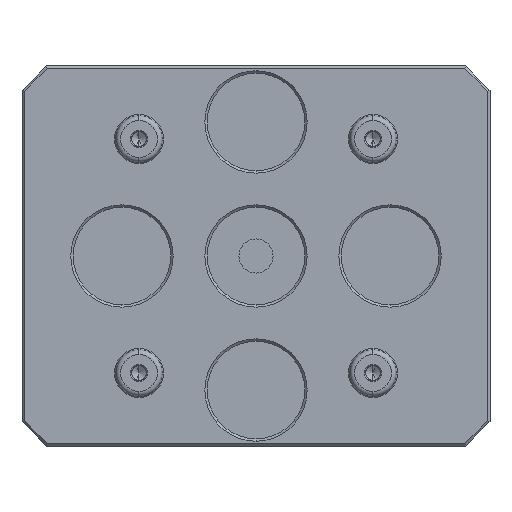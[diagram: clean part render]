
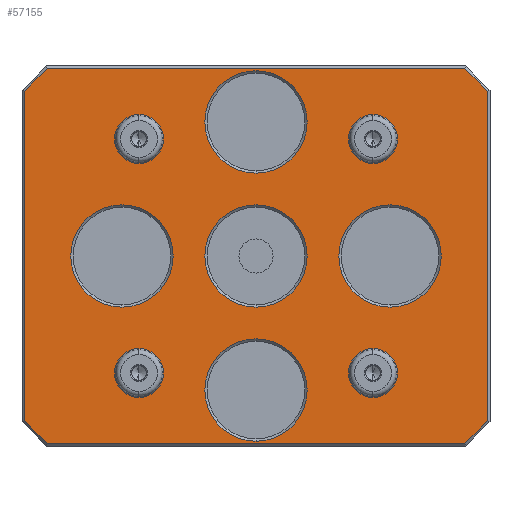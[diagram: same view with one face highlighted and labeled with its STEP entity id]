
A CAD part, front view. The second image highlights one B-rep face of the part: STEP entity #57155.
In plain terms, the highlighted planar face has unit normal (0, -1, 0).
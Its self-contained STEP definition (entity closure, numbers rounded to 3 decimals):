
#50152=DIRECTION('',(-1.,0.,0.));
#50153=VECTOR('',#50152,171.172);
#50154=CARTESIAN_POINT('',(85.586,0.,-77.));
#50155=LINE('',#50154,#50153);
#50184=DIRECTION('',(0.,0.,1.));
#50185=VECTOR('',#50184,135.172);
#50186=CARTESIAN_POINT('',(-95.,0.,-67.586));
#50187=LINE('',#50186,#50185);
#50204=DIRECTION('',(1.,0.,0.));
#50205=VECTOR('',#50204,171.172);
#50206=CARTESIAN_POINT('',(-85.586,0.,77.));
#50207=LINE('',#50206,#50205);
#50212=DIRECTION('',(0.,0.,-1.));
#50213=VECTOR('',#50212,135.172);
#50214=CARTESIAN_POINT('',(95.,0.,67.586));
#50215=LINE('',#50214,#50213);
#50224=DIRECTION('',(0.707,0.,0.707));
#50225=VECTOR('',#50224,13.314);
#50226=CARTESIAN_POINT('',(85.586,0.,-77.));
#50227=LINE('',#50226,#50225);
#50228=DIRECTION('',(0.707,0.,-0.707));
#50229=VECTOR('',#50228,13.314);
#50230=CARTESIAN_POINT('',(-95.,0.,-67.586));
#50231=LINE('',#50230,#50229);
#50232=DIRECTION('',(-0.707,0.,-0.707));
#50233=VECTOR('',#50232,13.314);
#50234=CARTESIAN_POINT('',(-85.586,0.,77.));
#50235=LINE('',#50234,#50233);
#50236=DIRECTION('',(-0.707,0.,0.707));
#50237=VECTOR('',#50236,13.314);
#50238=CARTESIAN_POINT('',(95.,0.,67.586));
#50239=LINE('',#50238,#50237);
#50240=CARTESIAN_POINT('',(48.,0.,48.));
#50241=DIRECTION('',(0.,1.,0.));
#50242=DIRECTION('',(0.,0.,-1.));
#50243=AXIS2_PLACEMENT_3D('',#50240,#50241,#50242);
#50245=CARTESIAN_POINT('',(48.,0.,48.));
#50246=DIRECTION('',(0.,1.,0.));
#50247=DIRECTION('',(0.,0.,1.));
#50248=AXIS2_PLACEMENT_3D('',#50245,#50246,#50247);
#50250=CARTESIAN_POINT('',(48.,0.,-48.));
#50251=DIRECTION('',(0.,1.,0.));
#50252=DIRECTION('',(0.,0.,-1.));
#50253=AXIS2_PLACEMENT_3D('',#50250,#50251,#50252);
#50255=CARTESIAN_POINT('',(48.,0.,-48.));
#50256=DIRECTION('',(0.,1.,0.));
#50257=DIRECTION('',(0.,0.,1.));
#50258=AXIS2_PLACEMENT_3D('',#50255,#50256,#50257);
#50260=CARTESIAN_POINT('',(-48.,0.,-48.));
#50261=DIRECTION('',(0.,1.,0.));
#50262=DIRECTION('',(0.,0.,-1.));
#50263=AXIS2_PLACEMENT_3D('',#50260,#50261,#50262);
#50265=CARTESIAN_POINT('',(-48.,0.,-48.));
#50266=DIRECTION('',(0.,1.,0.));
#50267=DIRECTION('',(0.,0.,1.));
#50268=AXIS2_PLACEMENT_3D('',#50265,#50266,#50267);
#50270=CARTESIAN_POINT('',(-48.,0.,48.));
#50271=DIRECTION('',(0.,1.,0.));
#50272=DIRECTION('',(0.,0.,-1.));
#50273=AXIS2_PLACEMENT_3D('',#50270,#50271,#50272);
#50275=CARTESIAN_POINT('',(-48.,0.,48.));
#50276=DIRECTION('',(0.,1.,0.));
#50277=DIRECTION('',(0.,0.,1.));
#50278=AXIS2_PLACEMENT_3D('',#50275,#50276,#50277);
#50280=CARTESIAN_POINT('',(55.,0.,0.));
#50281=DIRECTION('',(0.,1.,0.));
#50282=DIRECTION('',(0.,0.,-1.));
#50283=AXIS2_PLACEMENT_3D('',#50280,#50281,#50282);
#50285=CARTESIAN_POINT('',(55.,0.,0.));
#50286=DIRECTION('',(0.,1.,0.));
#50287=DIRECTION('',(0.,0.,1.));
#50288=AXIS2_PLACEMENT_3D('',#50285,#50286,#50287);
#50290=CARTESIAN_POINT('',(0.,0.,0.));
#50291=DIRECTION('',(0.,1.,0.));
#50292=DIRECTION('',(0.,0.,-1.));
#50293=AXIS2_PLACEMENT_3D('',#50290,#50291,#50292);
#50295=CARTESIAN_POINT('',(0.,0.,0.));
#50296=DIRECTION('',(0.,1.,0.));
#50297=DIRECTION('',(0.,0.,1.));
#50298=AXIS2_PLACEMENT_3D('',#50295,#50296,#50297);
#50300=CARTESIAN_POINT('',(0.,0.,-55.));
#50301=DIRECTION('',(0.,1.,0.));
#50302=DIRECTION('',(0.,0.,-1.));
#50303=AXIS2_PLACEMENT_3D('',#50300,#50301,#50302);
#50305=CARTESIAN_POINT('',(0.,0.,-55.));
#50306=DIRECTION('',(0.,1.,0.));
#50307=DIRECTION('',(0.,0.,1.));
#50308=AXIS2_PLACEMENT_3D('',#50305,#50306,#50307);
#50310=CARTESIAN_POINT('',(-55.,0.,0.));
#50311=DIRECTION('',(0.,1.,0.));
#50312=DIRECTION('',(0.,0.,-1.));
#50313=AXIS2_PLACEMENT_3D('',#50310,#50311,#50312);
#50315=CARTESIAN_POINT('',(-55.,0.,0.));
#50316=DIRECTION('',(0.,1.,0.));
#50317=DIRECTION('',(0.,0.,1.));
#50318=AXIS2_PLACEMENT_3D('',#50315,#50316,#50317);
#50320=CARTESIAN_POINT('',(0.,0.,55.));
#50321=DIRECTION('',(0.,1.,0.));
#50322=DIRECTION('',(0.,0.,-1.));
#50323=AXIS2_PLACEMENT_3D('',#50320,#50321,#50322);
#50325=CARTESIAN_POINT('',(0.,0.,55.));
#50326=DIRECTION('',(0.,1.,0.));
#50327=DIRECTION('',(0.,0.,1.));
#50328=AXIS2_PLACEMENT_3D('',#50325,#50326,#50327);
#53240=CARTESIAN_POINT('',(-48.,0.,-56.5));
#53242=VERTEX_POINT('',#53240);
#53286=CARTESIAN_POINT('',(55.,0.,21.));
#53288=VERTEX_POINT('',#53286);
#53298=CARTESIAN_POINT('',(-95.,0.,-67.586));
#53299=CARTESIAN_POINT('',(-85.586,0.,-77.));
#53300=VERTEX_POINT('',#53298);
#53301=VERTEX_POINT('',#53299);
#53340=CARTESIAN_POINT('',(48.,0.,39.5));
#53341=CARTESIAN_POINT('',(48.,0.,56.5));
#53342=VERTEX_POINT('',#53340);
#53343=VERTEX_POINT('',#53341);
#53357=CARTESIAN_POINT('',(85.586,0.,-77.));
#53359=VERTEX_POINT('',#53357);
#53370=CARTESIAN_POINT('',(0.,0.,76.));
#53371=VERTEX_POINT('',#53370);
#53376=CARTESIAN_POINT('',(95.,0.,-67.586));
#53377=VERTEX_POINT('',#53376);
#53436=CARTESIAN_POINT('',(85.586,0.,77.));
#53438=VERTEX_POINT('',#53436);
#53477=CARTESIAN_POINT('',(-55.,0.,-21.));
#53478=CARTESIAN_POINT('',(-55.,0.,21.));
#53479=VERTEX_POINT('',#53477);
#53480=VERTEX_POINT('',#53478);
#53493=CARTESIAN_POINT('',(95.,0.,67.586));
#53494=VERTEX_POINT('',#53493);
#53536=CARTESIAN_POINT('',(-85.586,0.,77.));
#53537=VERTEX_POINT('',#53536);
#53860=CARTESIAN_POINT('',(-48.,0.,-39.5));
#53861=VERTEX_POINT('',#53860);
#53867=CARTESIAN_POINT('',(55.,0.,-21.));
#53868=VERTEX_POINT('',#53867);
#53918=CARTESIAN_POINT('',(0.,0.,-34.));
#53919=VERTEX_POINT('',#53918);
#53945=CARTESIAN_POINT('',(0.,0.,34.));
#53947=VERTEX_POINT('',#53945);
#53973=CARTESIAN_POINT('',(0.,0.,-76.));
#53974=VERTEX_POINT('',#53973);
#54033=CARTESIAN_POINT('',(48.,0.,-56.5));
#54034=CARTESIAN_POINT('',(48.,0.,-39.5));
#54035=VERTEX_POINT('',#54033);
#54036=VERTEX_POINT('',#54034);
#54082=CARTESIAN_POINT('',(-48.,0.,56.5));
#54084=VERTEX_POINT('',#54082);
#54142=CARTESIAN_POINT('',(-48.,0.,39.5));
#54143=VERTEX_POINT('',#54142);
#54158=CARTESIAN_POINT('',(-95.,0.,67.586));
#54159=VERTEX_POINT('',#54158);
#54242=CARTESIAN_POINT('',(0.,0.,-21.));
#54243=VERTEX_POINT('',#54242);
#54263=CARTESIAN_POINT('',(0.,0.,21.));
#54264=VERTEX_POINT('',#54263);
#57086=CARTESIAN_POINT('',(0.,0.,0.));
#57087=DIRECTION('',(0.,-1.,0.));
#57088=DIRECTION('',(0.,0.,-1.));
#57089=AXIS2_PLACEMENT_3D('',#57086,#57087,#57088);
#57090=PLANE('',#57089);
#57091=ORIENTED_EDGE('',*,*,#57079,.T.);
#57092=ORIENTED_EDGE('',*,*,#56981,.F.);
#57093=ORIENTED_EDGE('',*,*,#56996,.T.);
#57094=ORIENTED_EDGE('',*,*,#57010,.F.);
#57095=ORIENTED_EDGE('',*,*,#57026,.T.);
#57096=ORIENTED_EDGE('',*,*,#57040,.F.);
#57097=ORIENTED_EDGE('',*,*,#57054,.T.);
#57098=ORIENTED_EDGE('',*,*,#57066,.F.);
#57099=EDGE_LOOP('',(#57091,#57092,#57093,#57094,#57095,#57096,#57097,#57098));
#57100=FACE_OUTER_BOUND('',#57099,.F.);
#57102=ORIENTED_EDGE('',*,*,#57101,.F.);
#57104=ORIENTED_EDGE('',*,*,#57103,.F.);
#57105=EDGE_LOOP('',(#57102,#57104));
#57106=FACE_BOUND('',#57105,.F.);
#57108=ORIENTED_EDGE('',*,*,#57107,.F.);
#57110=ORIENTED_EDGE('',*,*,#57109,.F.);
#57111=EDGE_LOOP('',(#57108,#57110));
#57112=FACE_BOUND('',#57111,.F.);
#57114=ORIENTED_EDGE('',*,*,#57113,.F.);
#57116=ORIENTED_EDGE('',*,*,#57115,.F.);
#57117=EDGE_LOOP('',(#57114,#57116));
#57118=FACE_BOUND('',#57117,.F.);
#57120=ORIENTED_EDGE('',*,*,#57119,.F.);
#57122=ORIENTED_EDGE('',*,*,#57121,.F.);
#57123=EDGE_LOOP('',(#57120,#57122));
#57124=FACE_BOUND('',#57123,.F.);
#57126=ORIENTED_EDGE('',*,*,#57125,.F.);
#57128=ORIENTED_EDGE('',*,*,#57127,.F.);
#57129=EDGE_LOOP('',(#57126,#57128));
#57130=FACE_BOUND('',#57129,.F.);
#57132=ORIENTED_EDGE('',*,*,#57131,.F.);
#57134=ORIENTED_EDGE('',*,*,#57133,.F.);
#57135=EDGE_LOOP('',(#57132,#57134));
#57136=FACE_BOUND('',#57135,.F.);
#57138=ORIENTED_EDGE('',*,*,#57137,.F.);
#57140=ORIENTED_EDGE('',*,*,#57139,.F.);
#57141=EDGE_LOOP('',(#57138,#57140));
#57142=FACE_BOUND('',#57141,.F.);
#57144=ORIENTED_EDGE('',*,*,#57143,.F.);
#57146=ORIENTED_EDGE('',*,*,#57145,.F.);
#57147=EDGE_LOOP('',(#57144,#57146));
#57148=FACE_BOUND('',#57147,.F.);
#57150=ORIENTED_EDGE('',*,*,#57149,.F.);
#57152=ORIENTED_EDGE('',*,*,#57151,.F.);
#57153=EDGE_LOOP('',(#57150,#57152));
#57154=FACE_BOUND('',#57153,.F.);
#57155=ADVANCED_FACE('',(#57100,#57106,#57112,#57118,#57124,#57130,#57136,
#57142,#57148,#57154),#57090,.T.);
#50244=CIRCLE('',#50243,8.5);
#50249=CIRCLE('',#50248,8.5);
#50254=CIRCLE('',#50253,8.5);
#50259=CIRCLE('',#50258,8.5);
#50264=CIRCLE('',#50263,8.5);
#50269=CIRCLE('',#50268,8.5);
#50274=CIRCLE('',#50273,8.5);
#50279=CIRCLE('',#50278,8.5);
#50284=CIRCLE('',#50283,21.);
#50289=CIRCLE('',#50288,21.);
#50294=CIRCLE('',#50293,21.);
#50299=CIRCLE('',#50298,21.);
#50304=CIRCLE('',#50303,21.);
#50309=CIRCLE('',#50308,21.);
#50314=CIRCLE('',#50313,21.);
#50319=CIRCLE('',#50318,21.);
#50324=CIRCLE('',#50323,21.);
#50329=CIRCLE('',#50328,21.);
#56981=EDGE_CURVE('',#53359,#53377,#50227,.T.);
#56996=EDGE_CURVE('',#53359,#53301,#50155,.T.);
#57010=EDGE_CURVE('',#53300,#53301,#50231,.T.);
#57026=EDGE_CURVE('',#53300,#54159,#50187,.T.);
#57040=EDGE_CURVE('',#53537,#54159,#50235,.T.);
#57054=EDGE_CURVE('',#53537,#53438,#50207,.T.);
#57066=EDGE_CURVE('',#53494,#53438,#50239,.T.);
#57079=EDGE_CURVE('',#53494,#53377,#50215,.T.);
#57101=EDGE_CURVE('',#53342,#53343,#50244,.T.);
#57103=EDGE_CURVE('',#53343,#53342,#50249,.T.);
#57107=EDGE_CURVE('',#54035,#54036,#50254,.T.);
#57109=EDGE_CURVE('',#54036,#54035,#50259,.T.);
#57113=EDGE_CURVE('',#53242,#53861,#50264,.T.);
#57115=EDGE_CURVE('',#53861,#53242,#50269,.T.);
#57119=EDGE_CURVE('',#54143,#54084,#50274,.T.);
#57121=EDGE_CURVE('',#54084,#54143,#50279,.T.);
#57125=EDGE_CURVE('',#53868,#53288,#50284,.T.);
#57127=EDGE_CURVE('',#53288,#53868,#50289,.T.);
#57131=EDGE_CURVE('',#54243,#54264,#50294,.T.);
#57133=EDGE_CURVE('',#54264,#54243,#50299,.T.);
#57137=EDGE_CURVE('',#53974,#53919,#50304,.T.);
#57139=EDGE_CURVE('',#53919,#53974,#50309,.T.);
#57143=EDGE_CURVE('',#53479,#53480,#50314,.T.);
#57145=EDGE_CURVE('',#53480,#53479,#50319,.T.);
#57149=EDGE_CURVE('',#53947,#53371,#50324,.T.);
#57151=EDGE_CURVE('',#53371,#53947,#50329,.T.);
